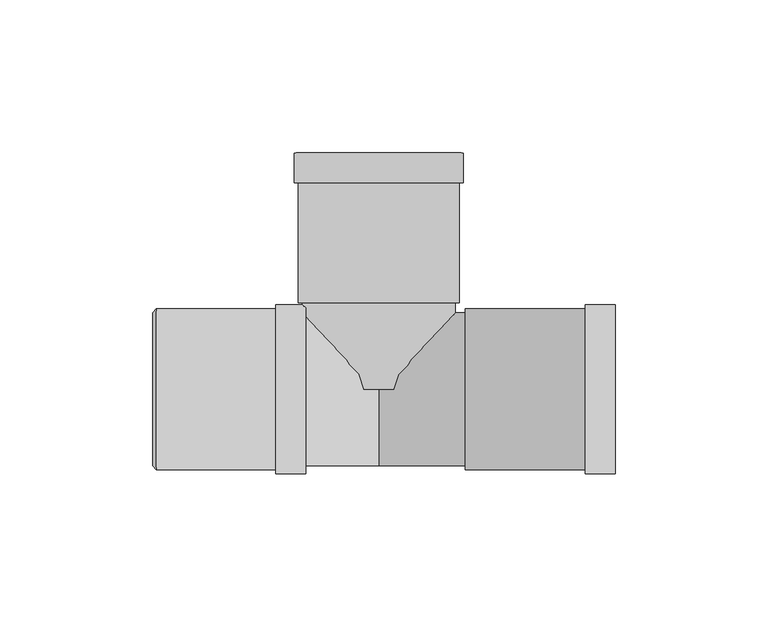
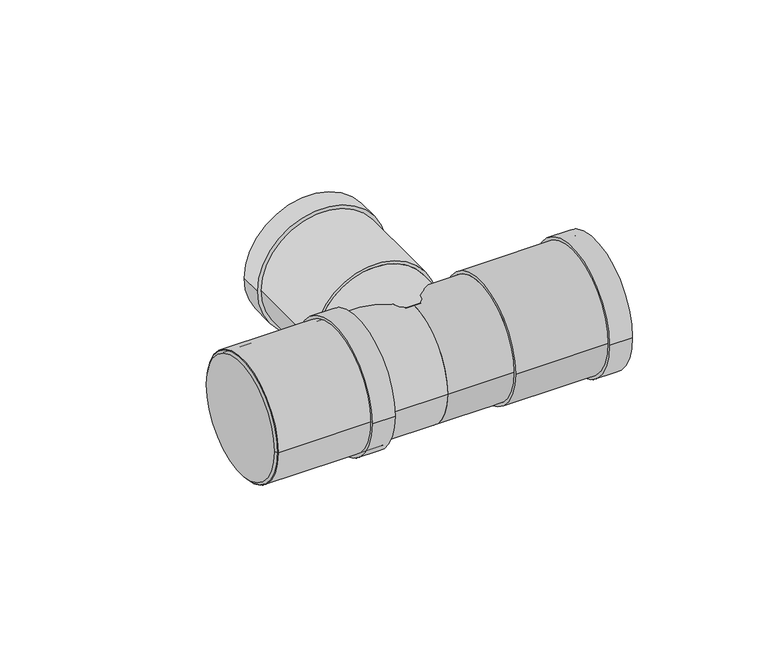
"""IFC4 building model written with IfcOpenShell, lengths in millimetres: pipe fitting geometry, Superdrain HTEA Branch : Superdrain HTEA Branch."""

from ifc_helpers import new_model, si_unit, point, frame, origin, origin_2d, place, context, project, spatial, polyline, circle_curve, trimmed, segment, composite_curve, outline, extrude, source, transform, mapped, element, save
from ifc_brep_helpers import plane_surface, revolved_surface, advanced_brep


def pipe_fitting_bdf820cf(model_context):
    return source(origin(), model_context, "Body", "SolidModel", [
        extrude(outline(composite_curve([segment(trimmed(circle_curve(origin_2d(), 26.25), [point((26.25, 0.0))], [point((-26.25, 0.0))], False, "CARTESIAN"), True, "CONTINUOUS"), segment(trimmed(circle_curve(origin_2d(), 26.25), [point((-26.25, 0.0))], [point((26.25, 0.0))], False, "CARTESIAN"), True, "CONTINUOUS")], self_intersect=False), holes=[composite_curve([segment(trimmed(circle_curve(origin_2d(), 25.0), [point((25.0, 0.0))], [point((-25.0, 0.0))], True, "CARTESIAN"), True, "CONTINUOUS"), segment(trimmed(circle_curve(origin_2d(), 25.0), [point((-25.0, 0.0))], [point((25.0, 0.0))], True, "CARTESIAN"), True, "CONTINUOUS")], self_intersect=False)]), frame((-72.8, 0.0, 0.0), z_axis=(1.0, 0.0, 0.0), x_axis=(0.0, 1.0, 0.0)), (0.0, 0.0, 1.0), 49.0),
        extrude(outline(composite_curve([segment(trimmed(circle_curve(origin_2d(), 27.5625), [point((27.5625, 0.0))], [point((-27.5625, 0.0))], False, "CARTESIAN"), True, "CONTINUOUS"), segment(trimmed(circle_curve(origin_2d(), 27.5625), [point((-27.5625, 0.0))], [point((27.5625, 0.0))], False, "CARTESIAN"), True, "CONTINUOUS")], self_intersect=False), holes=[composite_curve([segment(trimmed(circle_curve(origin_2d(), 25.0), [point((25.0, 0.0))], [point((-25.0, 0.0))], True, "CARTESIAN"), True, "CONTINUOUS"), segment(trimmed(circle_curve(origin_2d(), 25.0), [point((-25.0, 0.0))], [point((25.0, 0.0))], True, "CARTESIAN"), True, "CONTINUOUS")], self_intersect=False)]), frame((-33.6, 0.0, 0.0), z_axis=(1.0, 0.0, 0.0), x_axis=(0.0, 1.0, 0.0)), (0.0, 0.0, 1.0), 9.8),
        advanced_brep(
        [(-73.8, 25.0, 0.0), (-73.8, -25.0, 0.0), (-72.8, 26.25, 0.0), (-72.8, -26.25, 0.0)],
        [
            (0, 1, circle_curve(frame((-73.8, 0.0, 0.0), z_axis=(-1.0, 0.0, 0.0), x_axis=(0.0, 1.0, 0.0)), 25.0)),
            (1, 0, circle_curve(frame((-73.8, 0.0, 0.0), z_axis=(-1.0, 0.0, 0.0), x_axis=(0.0, -1.0, 0.0)), 25.0)),
            (2, 3, circle_curve(frame((-72.8, 0.0, 0.0), z_axis=(1.0, 0.0, 0.0), x_axis=(0.0, -1.0, 0.0)), 26.25)),
            (3, 2, circle_curve(frame((-72.8, 0.0, 0.0), z_axis=(1.0, 0.0, 0.0), x_axis=(0.0, 1.0, 0.0)), 26.25)),
            (3, 1),
            (0, 2),
        ],
        [
            plane_surface(frame((-73.8, 0.0, 0.0), z_axis=(-1.0, 0.0, 0.0), x_axis=(0.0, 0.0, -1.0))),
            plane_surface(frame((-72.8, 0.0, 0.0), z_axis=(1.0, 0.0, 0.0), x_axis=(0.0, 0.0, -1.0))),
            revolved_surface(polyline([(-73.8, 25.0, 0.0), (-72.8, 26.25, 0.0)]), (-93.8, 0.0, 0.0), (1.0, 0.0, 0.0)),
            revolved_surface(polyline([(-73.8, -25.0, 0.0), (-72.8, -26.25, 0.0)]), (-93.8, 0.0, 0.0), (1.0, 0.0, 0.0)),
        ],
        [
            (0, [[1, 2]]),
            (1, [[3, 4]]),
            (2, [[-4, 5, -1, 6]]),
            (3, [[-3, -6, -2, -5]]),
        ],
    ),
        extrude(outline(composite_curve([segment(trimmed(circle_curve(origin_2d(), 26.25), [point((-26.25, 0.0))], [point((26.25, 0.0))], False, "CARTESIAN"), True, "CONTINUOUS"), segment(trimmed(circle_curve(origin_2d(), 26.25), [point((26.25, 0.0))], [point((-26.25, 0.0))], False, "CARTESIAN"), True, "CONTINUOUS")], self_intersect=False), holes=[composite_curve([segment(trimmed(circle_curve(origin_2d(), 25.0), [point((25.0, 0.0))], [point((-25.0, 0.0))], True, "CARTESIAN"), True, "CONTINUOUS"), segment(trimmed(circle_curve(origin_2d(), 25.0), [point((-25.0, 0.0))], [point((25.0, 0.0))], True, "CARTESIAN"), True, "CONTINUOUS")], self_intersect=False)]), frame((28.2, 0.0, 0.0), z_axis=(1.0, 0.0, 0.0), x_axis=(0.0, 1.0, 0.0)), (0.0, 0.0, 1.0), 49.0),
        extrude(outline(composite_curve([segment(trimmed(circle_curve(origin_2d(), 27.5625), [point((27.5625, 0.0))], [point((-27.5625, 0.0))], False, "CARTESIAN"), True, "CONTINUOUS"), segment(trimmed(circle_curve(origin_2d(), 27.5625), [point((-27.5625, 0.0))], [point((27.5625, 0.0))], False, "CARTESIAN"), True, "CONTINUOUS")], self_intersect=False), holes=[composite_curve([segment(trimmed(circle_curve(origin_2d(), 25.0), [point((25.0, 0.0))], [point((-25.0, 0.0))], True, "CARTESIAN"), True, "CONTINUOUS"), segment(trimmed(circle_curve(origin_2d(), 25.0), [point((-25.0, 0.0))], [point((25.0, 0.0))], True, "CARTESIAN"), True, "CONTINUOUS")], self_intersect=False)]), frame((67.4, 0.0, 0.0), z_axis=(1.0, 0.0, 0.0), x_axis=(0.0, 1.0, 0.0)), (0.0, 0.0, 1.0), 9.8),
        extrude(outline(composite_curve([segment(trimmed(circle_curve(origin_2d(), 25.0), [point((0.0, 25.0))], [point((0.0, -25.0))], False, "CARTESIAN"), True, "CONTINUOUS"), segment(trimmed(circle_curve(origin_2d(), 25.0), [point((0.0, -25.0))], [point((0.0, 25.0))], False, "CARTESIAN"), True, "CONTINUOUS")], self_intersect=False)), frame((0.0, 0.0, 0.0), z_axis=(0.0, 1.0, 0.0), x_axis=(0.0, 0.0, 1.0)), (0.0, 0.0, 1.0), 28.2),
        extrude(outline(composite_curve([segment(trimmed(circle_curve(origin_2d(), 25.0), [point((25.0, 0.0))], [point((-25.0, 0.0))], False, "CARTESIAN"), True, "CONTINUOUS"), segment(trimmed(circle_curve(origin_2d(), 25.0), [point((-25.0, 0.0))], [point((25.0, 0.0))], False, "CARTESIAN"), True, "CONTINUOUS")], self_intersect=False)), frame((-72.8, 0.0, 0.0), z_axis=(1.0, 0.0, 0.0), x_axis=(0.0, 1.0, 0.0)), (0.0, 0.0, 1.0), 72.8),
        extrude(outline(composite_curve([segment(trimmed(circle_curve(origin_2d(), 25.0), [point((-25.0, 0.0))], [point((25.0, 0.0))], False, "CARTESIAN"), True, "CONTINUOUS"), segment(trimmed(circle_curve(origin_2d(), 25.0), [point((25.0, 0.0))], [point((-25.0, 0.0))], False, "CARTESIAN"), True, "CONTINUOUS")], self_intersect=False)), frame((0.0, 0.0, 0.0), z_axis=(1.0, 0.0, 0.0), x_axis=(0.0, 1.0, 0.0)), (0.0, 0.0, 1.0), 28.2),
        extrude(outline(composite_curve([segment(trimmed(circle_curve(origin_2d(), 27.5625), [point((0.0, 27.5625))], [point((0.0, -27.5625))], False, "CARTESIAN"), True, "CONTINUOUS"), segment(trimmed(circle_curve(origin_2d(), 27.5625), [point((0.0, -27.5625))], [point((0.0, 27.5625))], False, "CARTESIAN"), True, "CONTINUOUS")], self_intersect=False), holes=[composite_curve([segment(trimmed(circle_curve(origin_2d(), 25.0), [point((0.0, 25.0))], [point((0.0, -25.0))], True, "CARTESIAN"), True, "CONTINUOUS"), segment(trimmed(circle_curve(origin_2d(), 25.0), [point((0.0, -25.0))], [point((0.0, 25.0))], True, "CARTESIAN"), True, "CONTINUOUS")], self_intersect=False)]), frame((0.0, 67.4, 0.0), z_axis=(0.0, 1.0, 0.0), x_axis=(0.0, 0.0, 1.0)), (0.0, 0.0, 1.0), 9.8),
        extrude(outline(composite_curve([segment(trimmed(circle_curve(origin_2d(), 26.25), [point((0.0, 26.25))], [point((0.0, -26.25))], False, "CARTESIAN"), True, "CONTINUOUS"), segment(trimmed(circle_curve(origin_2d(), 26.25), [point((0.0, -26.25))], [point((0.0, 26.25))], False, "CARTESIAN"), True, "CONTINUOUS")], self_intersect=False), holes=[composite_curve([segment(trimmed(circle_curve(origin_2d(), 25.0), [point((0.0, 25.0))], [point((0.0, -25.0))], True, "CARTESIAN"), True, "CONTINUOUS"), segment(trimmed(circle_curve(origin_2d(), 25.0), [point((0.0, -25.0))], [point((0.0, 25.0))], True, "CARTESIAN"), True, "CONTINUOUS")], self_intersect=False)]), frame((0.0, 28.2, 0.0), z_axis=(0.0, 1.0, 0.0), x_axis=(0.0, 0.0, 1.0)), (0.0, 0.0, 1.0), 49.0),
    ])


if __name__ == "__main__":
    model = new_model("IFC4")
    model_context = context("Model", 3, world=origin())
    ifc_project = project(units=[si_unit("LENGTHUNIT", "METRE", prefix="MILLI")], contexts=[model_context])
    site = spatial("IfcSite", under=ifc_project)
    building = spatial("IfcBuilding", under=site)
    placement = place(None, origin())
    pipe_fitting_shape = pipe_fitting_bdf820cf(model_context)
    element("IfcPipeFitting", 1, ObjectType="Superdrain HTEA Branch : Superdrain HTEA Branch", at=placement, inside=building, context=model_context, shape_type="MappedRepresentation", body=[
        mapped(pipe_fitting_shape, transform((0.0, 0.0, 0.0), x_axis=(1.0, 0.0, 0.0), y_axis=(0.0, 1.0, 0.0), z_axis=(0.0, 0.0, 1.0))),
    ])
    save(model, "model.ifc")
